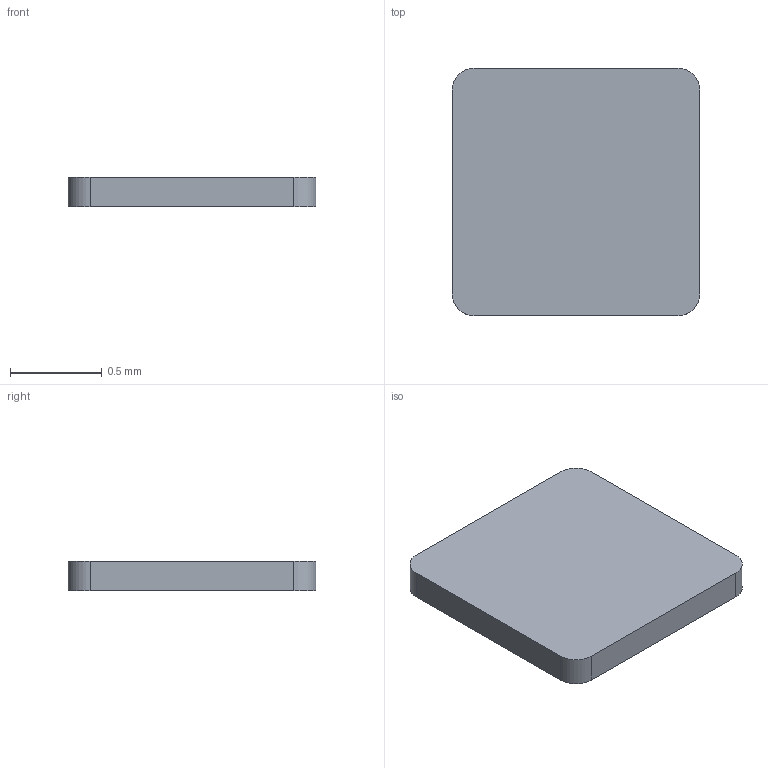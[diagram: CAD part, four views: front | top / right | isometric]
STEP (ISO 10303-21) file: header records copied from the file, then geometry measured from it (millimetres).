
FILE_DESCRIPTION(('Open CASCADE Model'),'2;1');
FILE_NAME('Open CASCADE Shape Model','2026-09-15T23:57:53',('Author'),( 'Open CASCADE'),'Open CASCADE STEP processor 7.9','Open CASCADE 7.9' ,'Unknown');
FILE_SCHEMA(('AUTOMOTIVE_DESIGN { 1 0 10303 214 1 1 1 1 }'));
Length unit declared in the file: millimetre
Products named in the file (1): Open CASCADE STEP translator 7.9 2
Bounding box: 1.35 x 1.35 x 0.16 mm (x, y, z)
Volume: 0.1 mm3; surface area: 4.9 mm2
Topology: 1 solids, 1 shells, 19 faces, 48 edges, 32 vertices
Faces by surface type: plane 11, cylinder 8
Entity records: 1224 total; most frequent: CARTESIAN_POINT 220, DIRECTION 196, LINE 112, VECTOR 112, ORIENTED_EDGE 96, PCURVE 96, DEFINITIONAL_REPRESENTATION 96, EDGE_CURVE 48
